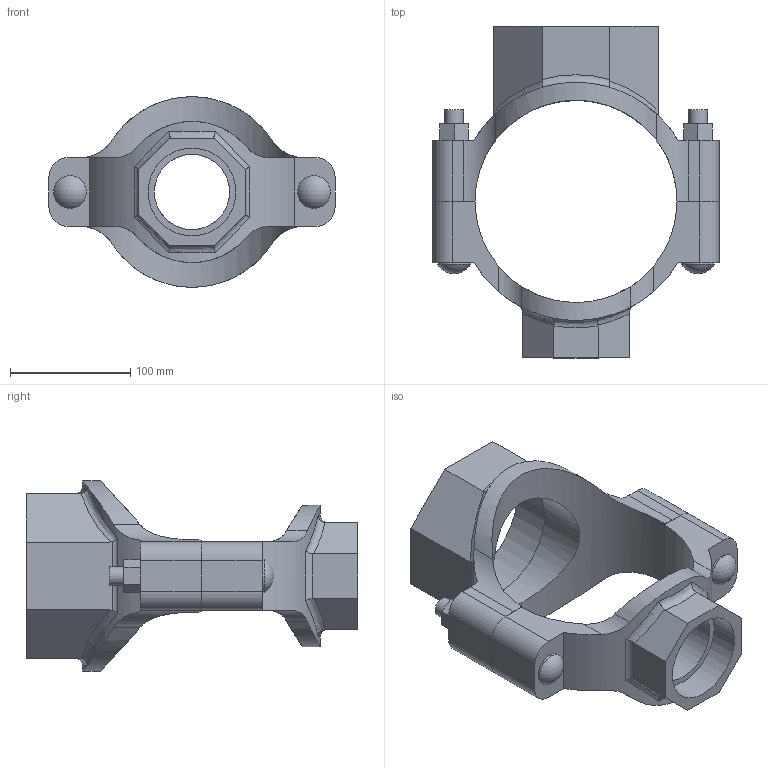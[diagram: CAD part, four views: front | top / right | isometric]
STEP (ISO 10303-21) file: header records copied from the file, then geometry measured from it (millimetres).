
FILE_DESCRIPTION(/* description */ ('VIC MECH-T BRANCH OUTLET CROSS STYLE 920N (THD)','CAx-IF Rec.Pracs.---Representation and Presentation of Product Manufacturing Information (PMI)---4.0---2014-10-13'),/* implementation_level */ '2;1');
FILE_NAME(/* name */ 'C:\Users\Vjadhav\AppData\Roaming\Autodesk\ApplicationPlugins\Back Up\Victaulic_IPS_Mechanical-Cross Outlet_Style 920N (FPT)\Victaulic_IPS_Mechanical-Cross Outlet_06.0x04.0x02.5 (150x100x65).stp',/* time_stamp */ '2020-08-06T18:59:46+05:00',/* author */ ('Vjadhav'),/* organization */ ('Victaulic'),/* preprocessor_version */ 'ST-DEVELOPER v17.2',/* originating_system */ 'Autodesk Inventor 2019',/* authorisation */ '');
FILE_SCHEMA (('AP242_MANAGED_MODEL_BASED_3D_ENGINEERING_MIM_LF { 1 0 10303 442 1 1 4 }'));
Length unit declared in the file: inch
Products named in the file (3): 920NT-06.0x04.0x02.5; 920T-06.0x04.0; 920T-06.0x02.5
Assembly tree (2 placements, depth 2):
  920NT-06.0x04.0x02.5
    920T-06.0x04.0
    920T-06.0x02.5
Bounding box: 238.25 x 276.35 x 158.75 mm (x, y, z)
Volume: 1272229.4 mm3; surface area: 215967.4 mm2
Topology: 2 solids, 2 shells, 131 faces, 350 edges, 236 vertices
Faces by surface type: plane 68, cylinder 49, bspline 8, torus 4, sphere 2
Full cylindrical faces by diameter (mm): 15.875 x4, 27.496 x2, 62.738 x1, 73.025 x1, 102.394 x1, 114.3 x1
Entity records: 5213 total; most frequent: CARTESIAN_POINT 1730, ORIENTED_EDGE 700, DIRECTION 634, EDGE_CURVE 350, VERTEX_POINT 236, AXIS2_PLACEMENT_3D 226, LINE 182, VECTOR 182
